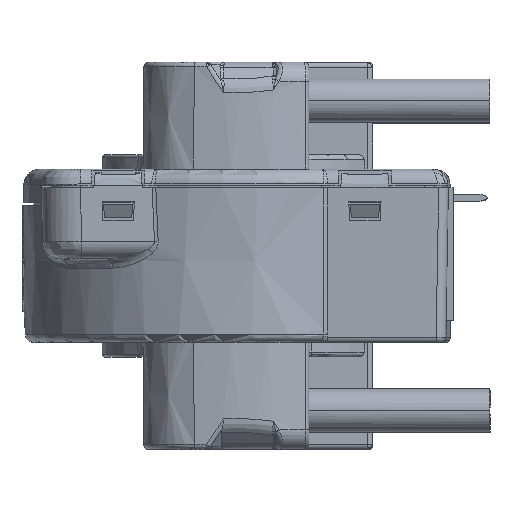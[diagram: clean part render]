
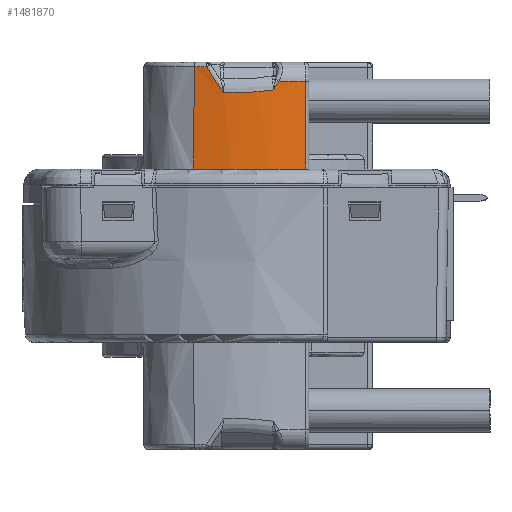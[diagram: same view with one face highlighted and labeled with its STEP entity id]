
A CAD part, top view. The second image highlights one B-rep face of the part: STEP entity #1481870.
In plain terms, the highlighted cylindrical face has radius 22.5 mm (diameter 45 mm), a partial arc.
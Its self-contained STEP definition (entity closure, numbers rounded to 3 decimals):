
#1468630=CARTESIAN_POINT('',(-7.737,4.98,
22.937));
#1468640=VERTEX_POINT('',#1468630);
#1468670=CARTESIAN_POINT('',(-3.181,4.98,
0.903));
#1468680=DIRECTION('',(0.,1.,0.));
#1468690=DIRECTION('',(0.,0.,-1.));
#1468700=AXIS2_PLACEMENT_3D('',#1468670,#1468680,#1468690);
#1468710=CIRCLE('',#1468700,22.5);
#1468720=CARTESIAN_POINT('',(3.875,4.98,
22.268));
#1468730=VERTEX_POINT('',#1468720);
#1468740=EDGE_CURVE('',#1468640,#1468730,#1468710,.T.);
#1480790=CARTESIAN_POINT('',(-3.181,16.03,
0.903));
#1480800=DIRECTION('',(0.,1.,0.));
#1480810=DIRECTION('',(0.,0.,-1.));
#1480820=AXIS2_PLACEMENT_3D('',#1480790,#1480800,#1480810);
#1480830=CYLINDRICAL_SURFACE('',#1480820,22.5);
#1480840=CARTESIAN_POINT('',(-6.204,13.054,
23.199));
#1480850=CARTESIAN_POINT('',(-6.111,13.043,
23.212));
#1480860=CARTESIAN_POINT('',(-6.018,13.032,
23.224));
#1480870=CARTESIAN_POINT('',(-5.6,12.985,
23.275));
#1480880=CARTESIAN_POINT('',(-5.274,12.955,
23.308));
#1480890=CARTESIAN_POINT('',(-4.784,12.92,
23.346));
#1480900=CARTESIAN_POINT('',(-4.62,12.91,
23.357));
#1480910=CARTESIAN_POINT('',(-4.292,12.893,
23.376));
#1480920=CARTESIAN_POINT('',(-4.128,12.886,
23.384));
#1480930=CARTESIAN_POINT('',(-3.799,12.876,
23.395));
#1480940=CARTESIAN_POINT('',(-3.635,12.872,
23.399));
#1480950=CARTESIAN_POINT('',(-3.306,12.868,
23.403));
#1480960=CARTESIAN_POINT('',(-3.142,12.868,
23.403));
#1480970=CARTESIAN_POINT('',(-2.813,12.871,
23.4));
#1480980=CARTESIAN_POINT('',(-2.648,12.874,
23.397));
#1480990=CARTESIAN_POINT('',(-2.32,12.883,
23.387));
#1481000=CARTESIAN_POINT('',(-2.156,12.889,
23.38));
#1481010=CARTESIAN_POINT('',(-1.828,12.905,
23.363));
#1481020=CARTESIAN_POINT('',(-1.665,12.915,
23.352));
#1481030=CARTESIAN_POINT('',(-1.339,12.937,
23.328));
#1481040=CARTESIAN_POINT('',(-1.176,12.95,
23.314));
#1481050=CARTESIAN_POINT('',(-0.689,12.992,
23.267));
#1481060=CARTESIAN_POINT('',(-0.366,13.027,
23.228));
#1481070=CARTESIAN_POINT('',(0.277,13.11,
23.138));
#1481080=CARTESIAN_POINT('',(0.597,13.157,
23.086));
#1481090=CARTESIAN_POINT('',(1.231,13.264,
22.968));
#1481100=CARTESIAN_POINT('',(1.546,13.324,
22.903));
#1481110=CARTESIAN_POINT('',(1.923,13.403,
22.816));
#1481120=CARTESIAN_POINT('',(1.987,13.417,
22.801));
#1481130=CARTESIAN_POINT('',(2.051,13.431,
22.786));
#1481140=B_SPLINE_CURVE_WITH_KNOTS('',3,(#1480840,#1480850,#1480860,
#1480870,#1480880,#1480890,#1480900,#1480910,#1480920,#1480930,#1480940,
#1480950,#1480960,#1480970,#1480980,#1480990,#1481000,#1481010,#1481020,
#1481030,#1481040,#1481050,#1481060,#1481070,#1481080,#1481090,#1481100,
#1481110,#1481120,#1481130),.UNSPECIFIED.,.F.,.F.,(4,2,2,2,2,2,2,2,2,2,2
,2,2,2,4),(11.12,11.392,12.335,
12.806,13.277,13.748,14.219,
14.691,15.162,15.631,16.101,
17.04,17.978,18.916,19.11),
.UNSPECIFIED.);
#1481150=CARTESIAN_POINT('',(-4.607,12.91,
23.358));
#1481160=VERTEX_POINT('',#1481150);
#1481170=CARTESIAN_POINT('',(0.555,13.153,
23.091));
#1481180=VERTEX_POINT('',#1481170);
#1481190=EDGE_CURVE('',#1481160,#1481180,#1481140,.T.);
#1481200=ORIENTED_EDGE('',*,*,#1481190,.F.);
#1481210=CARTESIAN_POINT('',(1.117,14.03,
22.989));
#1481220=CARTESIAN_POINT('',(1.117,14.03,
22.989));
#1481230=CARTESIAN_POINT('',(1.116,14.029,
22.989));
#1481240=CARTESIAN_POINT('',(1.023,13.883,
23.007));
#1481250=CARTESIAN_POINT('',(0.93,13.737,
23.024));
#1481260=CARTESIAN_POINT('',(0.791,13.52,
23.049));
#1481270=CARTESIAN_POINT('',(0.745,13.449,
23.058));
#1481280=CARTESIAN_POINT('',(0.562,13.163,
23.09));
#1481290=CARTESIAN_POINT('',(0.423,12.949,
23.113));
#1481300=CARTESIAN_POINT('',(0.284,12.735,
23.134));
#1481310=B_SPLINE_CURVE_WITH_KNOTS('',3,(#1481210,#1481220,#1481230,
#1481240,#1481250,#1481260,#1481270,#1481280,#1481290,#1481300),
.UNSPECIFIED.,.F.,.F.,(4,2,2,2,4),(0.,0.001,
0.522,0.776,1.541),.UNSPECIFIED.);
#1481320=CARTESIAN_POINT('',(1.117,14.03,
22.989));
#1481330=VERTEX_POINT('',#1481320);
#1481340=EDGE_CURVE('',#1481330,#1481180,#1481310,.T.);
#1481350=ORIENTED_EDGE('',*,*,#1481340,.T.);
#1481360=CARTESIAN_POINT('',(-3.181,14.03,
0.903));
#1481370=DIRECTION('',(0.,1.,0.));
#1481380=DIRECTION('',(1.,0.,0.));
#1481390=AXIS2_PLACEMENT_3D('',#1481360,#1481370,#1481380);
#1481400=CIRCLE('',#1481390,22.5);
#1481410=CARTESIAN_POINT('',(3.875,14.03,
22.268));
#1481420=VERTEX_POINT('',#1481410);
#1481430=EDGE_CURVE('',#1481330,#1481420,#1481400,.T.);
#1481440=ORIENTED_EDGE('',*,*,#1481430,.F.);
#1481450=CARTESIAN_POINT('',(3.875,16.03,
22.268));
#1481460=DIRECTION('',(0.,1.,0.));
#1481470=VECTOR('',#1481460,1.);
#1481480=LINE('',#1481450,#1481470);
#1481490=EDGE_CURVE('',#1468730,#1481420,#1481480,.T.);
#1481500=ORIENTED_EDGE('',*,*,#1481490,.T.);
#1481510=ORIENTED_EDGE('',*,*,#1468740,.T.);
#1481520=CARTESIAN_POINT('',(-7.522,22.529,
22.98));
#1481530=CARTESIAN_POINT('',(-7.571,18.509,
22.971));
#1481540=CARTESIAN_POINT('',(-7.62,14.488,
22.961));
#1481550=CARTESIAN_POINT('',(-7.719,6.472,
22.941));
#1481560=CARTESIAN_POINT('',(-7.768,2.476,
22.931));
#1481570=CARTESIAN_POINT('',(-7.817,-1.519,
22.92));
#1481580=B_SPLINE_CURVE_WITH_KNOTS('',3,(#1481520,#1481530,#1481540,
#1481550,#1481560,#1481570),.UNSPECIFIED.,.F.,.F.,(4,2,4),(
52.522,64.585,76.573),.UNSPECIFIED.);
#1481590=CARTESIAN_POINT('',(-7.608,15.53,
22.963));
#1481600=VERTEX_POINT('',#1481590);
#1481610=EDGE_CURVE('',#1481600,#1468640,#1481580,.T.);
#1481620=ORIENTED_EDGE('',*,*,#1481610,.T.);
#1481630=CARTESIAN_POINT('',(-3.181,15.53,
0.903));
#1481640=DIRECTION('',(0.,1.,0.));
#1481650=DIRECTION('',(1.,0.,0.));
#1481660=AXIS2_PLACEMENT_3D('',#1481630,#1481640,#1481650);
#1481670=CIRCLE('',#1481660,22.5);
#1481680=CARTESIAN_POINT('',(-6.385,15.53,
23.174));
#1481690=VERTEX_POINT('',#1481680);
#1481700=EDGE_CURVE('',#1481600,#1481690,#1481670,.T.);
#1481710=ORIENTED_EDGE('',*,*,#1481700,.F.);
#1481720=CARTESIAN_POINT('',(-6.385,15.53,
23.174));
#1481730=CARTESIAN_POINT('',(-6.327,15.443,
23.182));
#1481740=CARTESIAN_POINT('',(-6.27,15.356,
23.19));
#1481750=CARTESIAN_POINT('',(-5.989,14.933,
23.228));
#1481760=CARTESIAN_POINT('',(-5.764,14.598,
23.255));
#1481770=CARTESIAN_POINT('',(-5.306,13.921,
23.304));
#1481780=CARTESIAN_POINT('',(-5.072,13.58,
23.325));
#1481790=CARTESIAN_POINT('',(-4.666,12.993,
23.355));
#1481800=CARTESIAN_POINT('',(-4.494,12.746,
23.365));
#1481810=CARTESIAN_POINT('',(-4.321,12.5,
23.374));
#1481820=B_SPLINE_CURVE_WITH_KNOTS('',3,(#1481720,#1481730,#1481740,
#1481750,#1481760,#1481770,#1481780,#1481790,#1481800,#1481810),
.UNSPECIFIED.,.F.,.F.,(4,2,2,2,4),(17.831,18.143,
19.353,20.59,21.49),.UNSPECIFIED.);
#1481830=EDGE_CURVE('',#1481690,#1481160,#1481820,.T.);
#1481840=ORIENTED_EDGE('',*,*,#1481830,.F.);
#1481850=EDGE_LOOP('',(#1481840,#1481710,#1481620,#1481510,#1481500,
#1481440,#1481350,#1481200));
#1481860=FACE_OUTER_BOUND('',#1481850,.T.);
#1481870=ADVANCED_FACE('',(#1481860),#1480830,.T.);
